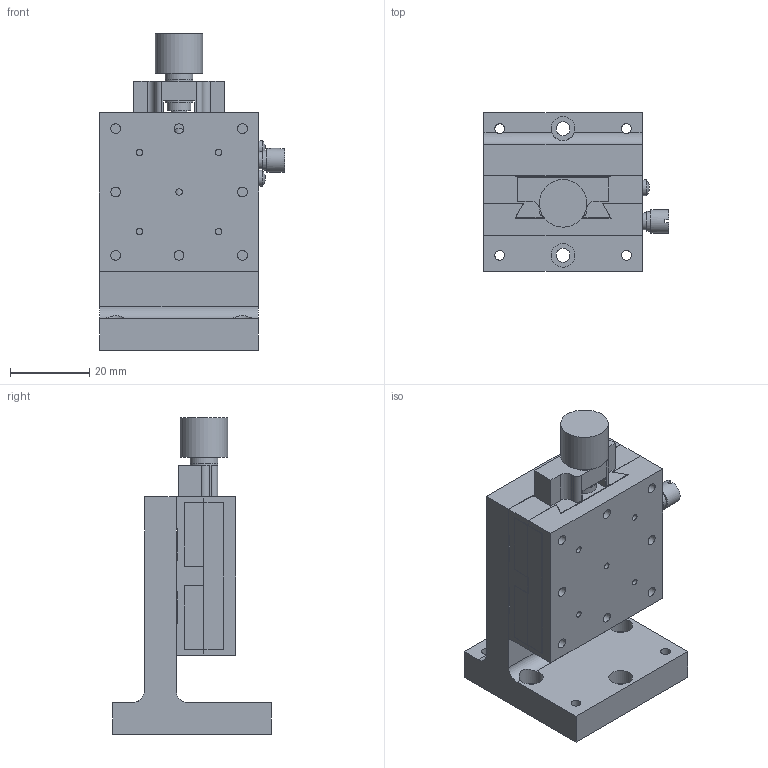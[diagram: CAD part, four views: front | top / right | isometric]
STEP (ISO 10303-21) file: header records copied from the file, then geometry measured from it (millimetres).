
FILE_DESCRIPTION( ( 'STEP AP203' ), '1' );
FILE_NAME( 'C:/3D-Trans/3D_B08-13R+090717.step', '2009-07-17T06:20:34', ( ' ' ), ( ' ' ), 'XStep 1.0', ' ', ' ' );
FILE_SCHEMA( ( 'CONFIG_CONTROL_DESIGN' ) );
Length unit declared in the file: millimetre
Products named in the file (3): 1; 2; 3
Bounding box: 46.85 x 40 x 80 mm (x, y, z)
Volume: 52702.8 mm3; surface area: 23392.8 mm2
Topology: 3 solids, 7 shells, 199 faces, 570 edges, 393 vertices
Faces by surface type: plane 117, cylinder 79, sphere 2, cone 1
Full cylindrical faces by diameter (mm): 1.6 x5, 2 x1, 2.2 x1, 2.5 x22, 3 x4, 3.2 x2, 3.5 x8, 4 x3, 4.3 x1, 4.5 x2, 5 x1, 6 x6, 6.5 x4, 7 x4, 12 x1
Entity records: 6375 total; most frequent: CARTESIAN_POINT 1313, DIRECTION 1009, ORIENTED_EDGE 910, EDGE_CURVE 455, AXIS2_PLACEMENT_3D 361, EDGE_LOOP 347, VERTEX_POINT 347, LINE 287
